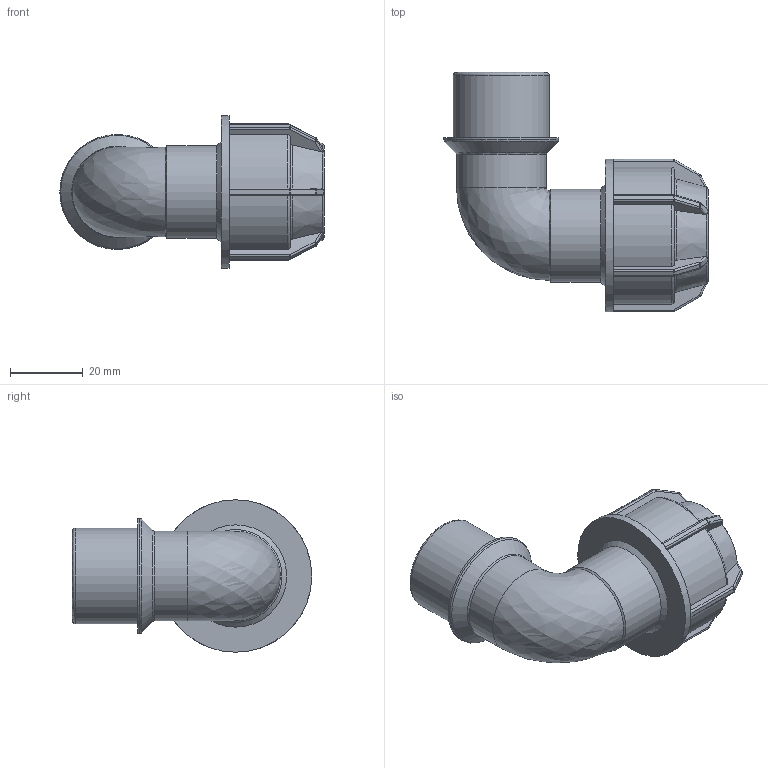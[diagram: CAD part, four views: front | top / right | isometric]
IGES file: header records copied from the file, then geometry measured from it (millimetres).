
Global section: file name: 148500016007.ipt; native system: Autodesk Inventor 2015; preprocessor: unknown; author: KIM; date: 20180409.131240; units: millimetre
Bounding box: 72.86 x 66 x 42 mm (x, y, z)
Volume: 36908.8 mm3; surface area: 17593.4 mm2
Topology: 1 solids, 1 shells, 215 faces, 530 edges, 310 vertices
Faces by surface type: plane 100, cylinder 59, sphere 24, revolution 23, cone 9
Full cylindrical faces by diameter (mm): 24.722 x1, 25.6 x1, 26.441 x1, 31.729 x1, 42 x1
